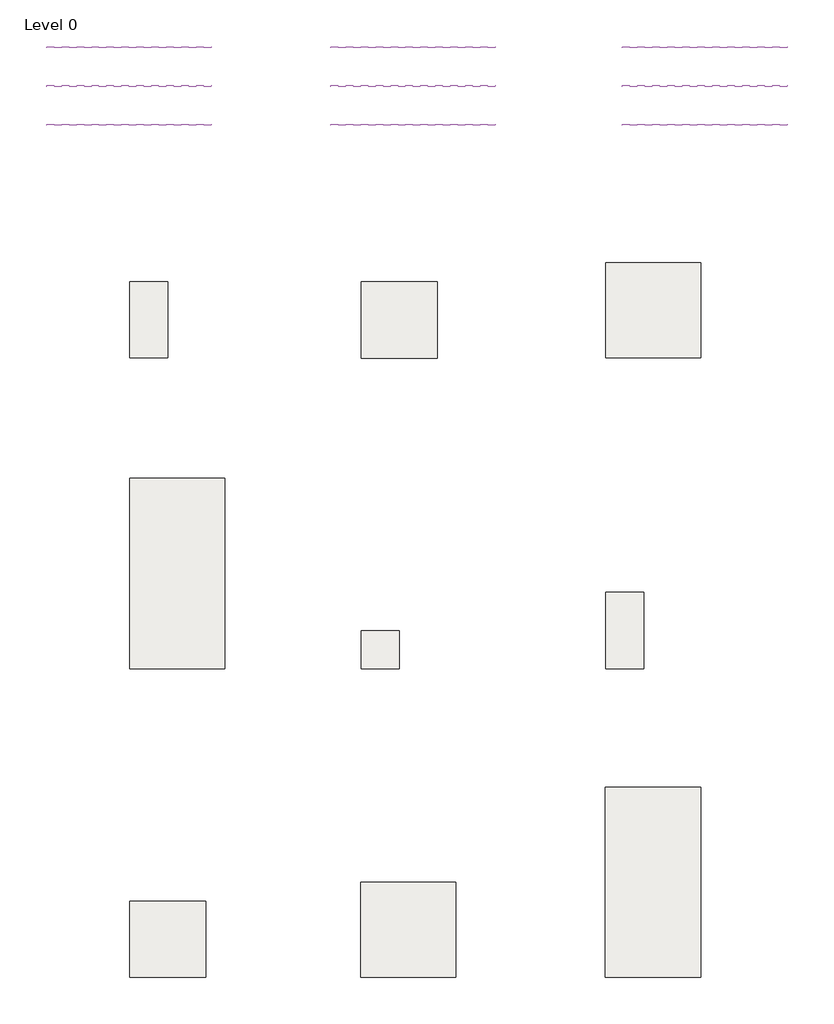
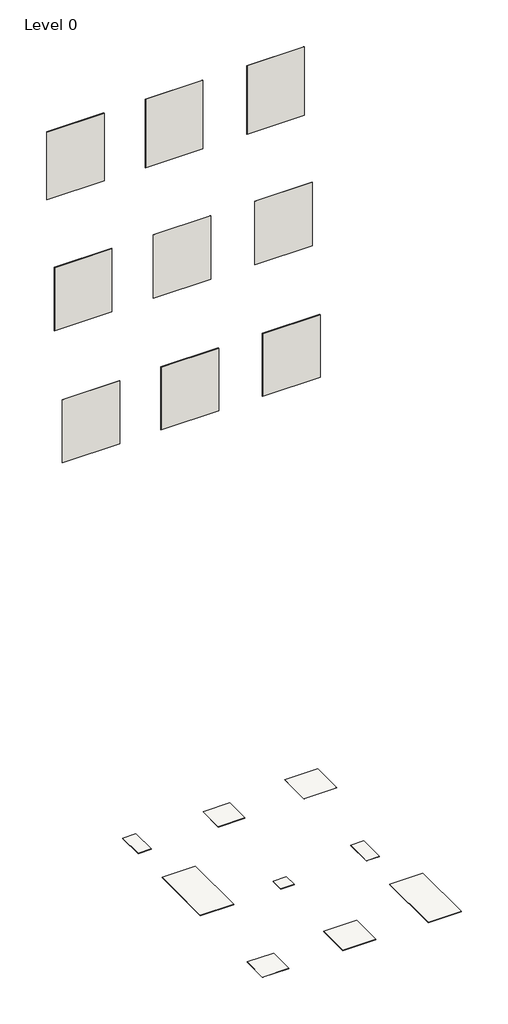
# One storey: 9 slabs, 9 walls.
"""IFC4 building model written with IfcOpenShell, lengths in millimetres."""

import ifcopenshell
import ifcopenshell.guid

model = None  # the IFC model being written
_history = None  # IfcOwnerHistory: only IFC2X3 demands one
_inside = {}  # id of a spatial element -> (the spatial element, [elements in it])
_under = {}  # id of a project, library or spatial element -> (it, [spatial elements below it])
_declared = {}  # id of a project -> (the project, [libraries it declares])
_typed = {}  # id of a type object -> (the type object, [elements of that type])
_made_of = {}  # id of a material, layer set ... -> (it, [elements and type objects made of it])


def new_model(schema):
    """Start an empty IFC model of exactly this schema.

    Asked for "IFC4X3", IfcOpenShell would pick the latest addendum, in which some entities
    have other attributes; the version numbers below select the first issue.
    IFC2X3 requires an IfcOwnerHistory on every rooted entity: one is made here for all.
    """
    global model, _history
    if schema == "IFC4X3":
        model = ifcopenshell.file(schema_version=(4, 3, 0, 0))
    else:
        model = ifcopenshell.file(schema=schema)
    _inside.clear()
    _under.clear()
    _declared.clear()
    _typed.clear()
    _made_of.clear()
    _history = None
    if model.schema == "IFC2X3":
        org = make("IfcOrganization", Name="unknown")
        user = make(
            "IfcPersonAndOrganization",
            ThePerson=make("IfcPerson", FamilyName="unknown"),
            TheOrganization=org,
        )
        app = make(
            "IfcApplication",
            ApplicationDeveloper=org,
            Version="unknown",
            ApplicationFullName="unknown",
            ApplicationIdentifier="unknown",
        )
        _history = make(
            "IfcOwnerHistory",
            OwningUser=user,
            OwningApplication=app,
            ChangeAction="ADDED",
            CreationDate=0,
        )
    return model


def make(cls, **values):
    """One entity of the class cls with the attributes given. An attribute that is None is left unset."""
    return model.create_entity(
        cls, **{name: value for name, value in values.items() if value is not None}
    )


def rooted(cls, **values):
    """An entity with a GlobalId (a new one), such as an element, a storey or a relation."""
    return make(cls, GlobalId=ifcopenshell.guid.new(), OwnerHistory=_history, **values)


def si_unit(unit_type, name, prefix=None):
    """IfcSIUnit, for example si_unit("LENGTHUNIT", "METRE", prefix="MILLI")."""
    return make("IfcSIUnit", UnitType=unit_type, Prefix=prefix, Name=name)


def assignment(units):
    """IfcUnitAssignment: the units of a project."""
    return None if units is None else make("IfcUnitAssignment", Units=units)


def point(xyz):
    """IfcCartesianPoint."""
    return None if xyz is None else make("IfcCartesianPoint", Coordinates=xyz)


def direction(xyz):
    """IfcDirection."""
    return None if xyz is None else make("IfcDirection", DirectionRatios=xyz)


def frame(location, z_axis=None, x_axis=None):
    """IfcAxis2Placement3D, a coordinate frame: its origin and axes. An axis left out is left unset."""
    return make(
        "IfcAxis2Placement3D",
        Location=point(location),
        Axis=direction(z_axis),
        RefDirection=direction(x_axis),
    )


def origin():
    """The frame at (0, 0, 0) with its axes left unset."""
    return frame((0.0, 0.0, 0.0))


def place(relative_to, where):
    """IfcLocalPlacement: puts the frame where relative to a parent placement (None: the world)."""
    return make(
        "IfcLocalPlacement", PlacementRelTo=relative_to, RelativePlacement=where
    )


def context(
    kind, dimensions, precision=None, world=None, true_north=None, identifier=None
):
    """IfcGeometricRepresentationContext, for example the 3D "Model" context."""
    return make(
        "IfcGeometricRepresentationContext",
        ContextIdentifier=identifier,
        ContextType=kind,
        CoordinateSpaceDimension=dimensions,
        Precision=precision,
        WorldCoordinateSystem=world,
        TrueNorth=true_north,
    )


def project(units=None, contexts=None):
    """IfcProject with its units and contexts."""
    return rooted(
        "IfcProject",
        Name="project",
        RepresentationContexts=contexts,
        UnitsInContext=assignment(units),
    )


def spatial(cls, under=None, at=None, **own):
    """A site, building, storey or space (cls), placed at a placement, below another one or the project."""
    s = rooted(cls, ObjectPlacement=at, **own)
    if under is not None:
        _under.setdefault(under.id(), (under, []))[1].append(s)
    return s


def polyline(points):
    """IfcPolyline through the points."""
    return make("IfcPolyline", Points=[point(p) for p in points])


def outline(outer, holes=None, kind="AREA"):
    """IfcArbitraryClosedProfileDef: a profile drawn as a closed curve; with holes, ...WithVoids."""
    if holes is None:
        return make("IfcArbitraryClosedProfileDef", ProfileType=kind, OuterCurve=outer)
    return make(
        "IfcArbitraryProfileDefWithVoids",
        ProfileType=kind,
        OuterCurve=outer,
        InnerCurves=holes,
    )


def extrude(swept, where, along, depth):
    """IfcExtrudedAreaSolid: the profile swept, set in the frame where, extruded along a direction by depth."""
    return make(
        "IfcExtrudedAreaSolid",
        SweptArea=swept,
        Position=where,
        ExtrudedDirection=direction(along),
        Depth=depth,
    )


def shape(context_of_items, identifier, shape_type, items):
    """IfcShapeRepresentation: the items that make up one representation, for example the "Body"."""
    return make(
        "IfcShapeRepresentation",
        ContextOfItems=context_of_items,
        RepresentationIdentifier=identifier,
        RepresentationType=shape_type,
        Items=items,
    )


def made_of(thing, what):
    """Note that an element or type object is made of a material, layer set ...; save() writes the relation."""
    if what is not None:
        _made_of.setdefault(what.id(), (what, []))[1].append(thing)
    return thing


def element(
    cls,
    number,
    at=None,
    inside=None,
    cuts=None,
    type_object=None,
    material=None,
    context=None,
    identifier="Body",
    shape_type=None,
    held_by="IfcProductDefinitionShape",
    body=None,
    shapes=None,
    **own,
):
    """One element of the class cls, such as IfcWall. Its Tag is "e" and its number.

    at: its placement. inside: the storey or other place that contains it. cuts: it is an
    opening in that element (IfcRelVoidsElement). A single representation is given by context,
    identifier, shape_type and body (its items); several are given by shapes. held_by: the class
    of the entity that holds the representations. save() writes the other relations.
    """
    e = rooted(cls, Tag="e%d" % number, ObjectPlacement=at, **own)
    if body is not None:
        shapes = [shape(context, identifier, shape_type, body)]
    if shapes is not None:
        e.Representation = make(held_by, Representations=shapes)
    if inside is not None:
        _inside.setdefault(inside.id(), (inside, []))[1].append(e)
    if cuts is not None:
        rooted(
            "IfcRelVoidsElement", RelatingBuildingElement=cuts, RelatedOpeningElement=e
        )
    if type_object is not None:
        _typed.setdefault(type_object.id(), (type_object, []))[1].append(e)
    return made_of(e, material)


def aggregate(whole, parts):
    """IfcRelAggregates: a whole, such as a stair, and the parts it consists of."""
    return rooted("IfcRelAggregates", RelatingObject=whole, RelatedObjects=parts)


def save(model, path):
    """Write the relations noted so far, then the file.

    IfcRelAggregates (storeys below a building ...), IfcRelContainedInSpatialStructure (elements
    in a storey), IfcRelDefinesByType, IfcRelAssociatesMaterial and IfcRelDeclares: one each for
    every whole, place, type object, material and project.
    """
    for whole, parts in _under.values():
        aggregate(whole, parts)
    for where, things in _inside.values():
        rooted(
            "IfcRelContainedInSpatialStructure",
            RelatedElements=things,
            RelatingStructure=where,
        )
    for kind, things in _typed.values():
        rooted("IfcRelDefinesByType", RelatedObjects=things, RelatingType=kind)
    for what, things in _made_of.values():
        rooted("IfcRelAssociatesMaterial", RelatedObjects=things, RelatingMaterial=what)
    for by, libraries in _declared.values():
        rooted("IfcRelDeclares", RelatingContext=by, RelatedDefinitions=libraries)
    model.write(path)


model = new_model("IFC4")

# Units and contexts
model_context = context("Model", 3, world=origin())
ifc_project = project(units=[si_unit("LENGTHUNIT", "METRE", prefix="MILLI")], contexts=[model_context])

# Site, building, storey
site = spatial("IfcSite", under=ifc_project)
building = spatial("IfcBuilding", under=site)
storey = spatial("IfcBuildingStorey", under=building, Name="Level 0", Elevation=0.0)

# Slabs
placement = place(None, origin())
element("IfcSlab", 1, ObjectType="Floor_Tiles_Refin-Prestigio_Onyx-Beige-75x75 NZ83", at=placement, inside=storey, context=model_context, shape_type="SweptSolid", body=[
    extrude(outline(polyline([(11077.1861419, 6439.4623743), (11077.1861419, 5689.4623743), (10327.1861419, 5689.4623743), (10327.1861419, 6439.4623743), (11077.1861419, 6439.4623743)])), frame((0.0, 0.0, -10.0), z_axis=(0.0, 0.0, 1.0), x_axis=(1.0, 0.0, 0.0)), (0.0, 0.0, 1.0), 10.0),
])
element("IfcSlab", 2, ObjectType="Floor_Tiles_Refin-Prestigio_Onyx-Beige-30x60 NW01", at=placement, inside=storey, context=model_context, shape_type="SweptSolid", body=[
    extrude(outline(polyline([(6874.3752062, 6289.4623743), (6874.3752062, 5689.4623743), (6574.3752062, 5689.4623743), (6574.3752062, 6289.4623743), (6874.3752062, 6289.4623743)])), frame((0.0, 0.0, -10.0), z_axis=(0.0, 0.0, 1.0), x_axis=(1.0, 0.0, 0.0)), (0.0, 0.0, 1.0), 10.0),
])
element("IfcSlab", 3, ObjectType="Floor_Tiles_Refin-Prestigio_Onyx-Beige_Soft-30x60 NW06", at=placement, inside=storey, context=model_context, shape_type="SweptSolid", body=[
    extrude(outline(polyline([(10627.1861419, 3839.4623743), (10627.1861419, 3239.4623743), (10327.1861419, 3239.4623743), (10327.1861419, 3839.4623743), (10627.1861419, 3839.4623743)])), frame((0.0, 0.0, -10.0), z_axis=(0.0, 0.0, 1.0), x_axis=(1.0, 0.0, 0.0)), (0.0, 0.0, 1.0), 10.0),
])
element("IfcSlab", 4, ObjectType="Floor_Tiles_Refin-Prestigio_Onyx-Beige-30x30 NZ91", at=placement, inside=storey, context=model_context, shape_type="SweptSolid", body=[
    extrude(outline(polyline([(8697.3924055, 3539.4623743), (8697.3924055, 3239.4623743), (8397.3924055, 3239.4623743), (8397.3924055, 3539.4623743), (8697.3924055, 3539.4623743)])), frame((0.0, 0.0, -10.0), z_axis=(0.0, 0.0, 1.0), x_axis=(1.0, 0.0, 0.0)), (0.0, 0.0, 1.0), 10.0),
])
element("IfcSlab", 5, ObjectType="Floor_Tiles_Refin-Prestigio_Onyx-Beige-75x150 NV71", at=placement, inside=storey, context=model_context, shape_type="SweptSolid", body=[
    extrude(outline(polyline([(7324.3752062, 4739.4623743), (7324.3752062, 3239.4623743), (6574.3752062, 3239.4623743), (6574.3752062, 4739.4623743), (7324.3752062, 4739.4623743)])), frame((0.0, 0.0, -10.0), z_axis=(0.0, 0.0, 1.0), x_axis=(1.0, 0.0, 0.0)), (0.0, 0.0, 1.0), 10.0),
])
element("IfcSlab", 6, ObjectType="Floor_Tiles_Refin-Prestigio_Onyx-Beige_Soft-60x60 NZ98", at=placement, inside=storey, context=model_context, shape_type="SweptSolid", body=[
    extrude(outline(polyline([(7172.6009331, 1403.4367235), (7172.6009331, 803.4367235), (6572.6009331, 803.4367235), (6572.6009331, 1403.4367235), (7172.6009331, 1403.4367235)])), frame((0.0, 0.0, -10.0), z_axis=(0.0, 0.0, 1.0), x_axis=(1.0, 0.0, 0.0)), (0.0, 0.0, 1.0), 10.0),
])
element("IfcSlab", 7, ObjectType="Floor_Tiles_Refin-Prestigio_Onyx-Beige-60x60 NZ95", at=placement, inside=storey, context=model_context, shape_type="SweptSolid", body=[
    extrude(outline(polyline([(8997.3924055, 6288.4192064), (8997.3924055, 5688.4192064), (8397.3924055, 5688.4192064), (8397.3924055, 6288.4192064), (8997.3924055, 6288.4192064)])), frame((0.0, 0.0, -10.0), z_axis=(0.0, 0.0, 1.0), x_axis=(1.0, 0.0, 0.0)), (0.0, 0.0, 1.0), 10.0),
])
element("IfcSlab", 8, ObjectType="Floor_Tiles_Refin-Prestigio_Onyx-Beige_Soft-75x75 NZ86", at=placement, inside=storey, context=model_context, shape_type="SweptSolid", body=[
    extrude(outline(polyline([(9145.6181323, 1553.4367235), (9145.6181323, 803.4367235), (8395.6181323, 803.4367235), (8395.6181323, 1553.4367235), (9145.6181323, 1553.4367235)])), frame((0.0, 0.0, -10.0), z_axis=(0.0, 0.0, 1.0), x_axis=(1.0, 0.0, 0.0)), (0.0, 0.0, 1.0), 10.0),
])
element("IfcSlab", 9, ObjectType="Floor_Tiles_Refin-Prestigio_Onyx-Beige_Soft-75x150 NZ80", at=placement, inside=storey, context=model_context, shape_type="SweptSolid", body=[
    extrude(outline(polyline([(11075.4118688, 2303.4367235), (11075.4118688, 803.4367235), (10325.4118688, 803.4367235), (10325.4118688, 2303.4367235), (11075.4118688, 2303.4367235)])), frame((0.0, 0.0, -10.0), z_axis=(0.0, 0.0, 1.0), x_axis=(1.0, 0.0, 0.0)), (0.0, 0.0, 1.0), 10.0),
])

# Walls
element("IfcWall", 10, ObjectType="Wall_Tiles_Refin-Prestigio_Onyx-Beige-60x60 NZ95", at=placement, inside=storey, context=model_context, shape_type="SweptSolid", body=[
    extrude(outline(polyline([(9457.3752062, 8132.3838631), (8157.3752062, 8132.3838631), (8157.3752062, 8142.3838631), (9457.3752062, 8142.3838631), (9457.3752062, 8132.3838631)])), frame((0.0, 0.0, 14387.6770443), z_axis=(0.0, 0.0, 1.0), x_axis=(1.0, 0.0, 0.0)), (0.0, 0.0, 1.0), 1641.7417352),
])
element("IfcWall", 11, ObjectType="Wall_Tiles_Refin-Prestigio_Onyx-Beige-75x75 NZ83", at=placement, inside=storey, context=model_context, shape_type="SweptSolid", body=[
    extrude(outline(polyline([(11757.3752062, 8132.3838631), (10457.3752062, 8132.3838631), (10457.3752062, 8142.3838631), (11757.3752062, 8142.3838631), (11757.3752062, 8132.3838631)])), frame((0.0, 0.0, 14387.6770443), z_axis=(0.0, 0.0, 1.0), x_axis=(1.0, 0.0, 0.0)), (0.0, 0.0, 1.0), 1641.7417352),
])
element("IfcWall", 12, ObjectType="Wall_Tiles_Refin-Prestigio_Onyx-Beige-30x60 NW01", at=placement, inside=storey, context=model_context, shape_type="SweptSolid", body=[
    extrude(outline(polyline([(7217.3752062, 8132.3838631), (5917.3752062, 8132.3838631), (5917.3752062, 8142.3838631), (7217.3752062, 8142.3838631), (7217.3752062, 8132.3838631)])), frame((0.0, 0.0, 14403.7267346), z_axis=(0.0, 0.0, 1.0), x_axis=(1.0, 0.0, 0.0)), (0.0, 0.0, 1.0), 1625.692045),
])
element("IfcWall", 13, ObjectType="Wall_Tiles_Refin-Prestigio_Onyx-Beige-75x150 NV71", at=placement, inside=storey, context=model_context, shape_type="SweptSolid", body=[
    extrude(outline(polyline([(7217.3752062, 7827.3838631), (5917.3752062, 7827.3838631), (5917.3752062, 7837.3838631), (7217.3752062, 7837.3838631), (7217.3752062, 7827.3838631)])), frame((0.0, 0.0, 11452.5436262), z_axis=(0.0, 0.0, 1.0), x_axis=(1.0, 0.0, 0.0)), (0.0, 0.0, 1.0), 1513.1985566),
])
element("IfcWall", 14, ObjectType="Wall_Tiles_Refin-Prestigio_Onyx-Beige-30x30 NZ91", at=placement, inside=storey, context=model_context, shape_type="SweptSolid", body=[
    extrude(outline(polyline([(9457.3752062, 7827.3838631), (8157.3752062, 7827.3838631), (8157.3752062, 7837.3838631), (9457.3752062, 7837.3838631), (9457.3752062, 7827.3838631)])), frame((0.0, 0.0, 11452.5436262), z_axis=(0.0, 0.0, 1.0), x_axis=(1.0, 0.0, 0.0)), (0.0, 0.0, 1.0), 1513.1985566),
])
element("IfcWall", 15, ObjectType="Wall_Tiles_Refin-Prestigio_Onyx-Beige_Soft_30x60 NW06", at=placement, inside=storey, context=model_context, shape_type="SweptSolid", body=[
    extrude(outline(polyline([(11757.3752062, 7827.3838631), (10457.3752062, 7827.3838631), (10457.3752062, 7837.3838631), (11757.3752062, 7837.3838631), (11757.3752062, 7827.3838631)])), frame((0.0, 0.0, 11452.5436262), z_axis=(0.0, 0.0, 1.0), x_axis=(1.0, 0.0, 0.0)), (0.0, 0.0, 1.0), 1513.1985566),
])
element("IfcWall", 16, ObjectType="Wall_Tiles_Refin-Prestigio_Onyx-Beige_Soft_60x60 NZ98", at=placement, inside=storey, context=model_context, shape_type="SweptSolid", body=[
    extrude(outline(polyline([(7217.3752062, 7522.3838631), (5917.3752062, 7522.3838631), (5917.3752062, 7532.3838631), (7217.3752062, 7532.3838631), (7217.3752062, 7522.3838631)])), frame((0.0, 0.0, 8479.1027214), z_axis=(0.0, 0.0, 1.0), x_axis=(1.0, 0.0, 0.0)), (0.0, 0.0, 1.0), 1502.5740159),
])
element("IfcWall", 17, ObjectType="Wall_Tiles_Refin-Prestigio_Onyx-Beige_Soft_75x75 NZ86", at=placement, inside=storey, context=model_context, shape_type="SweptSolid", body=[
    extrude(outline(polyline([(9457.3752062, 7522.3838631), (8157.3752062, 7522.3838631), (8157.3752062, 7532.3838631), (9457.3752062, 7532.3838631), (9457.3752062, 7522.3838631)])), frame((0.0, 0.0, 8479.1027214), z_axis=(0.0, 0.0, 1.0), x_axis=(1.0, 0.0, 0.0)), (0.0, 0.0, 1.0), 1502.5740159),
])
element("IfcWall", 18, ObjectType="Wall_Tiles_Refin-Prestigio_Onyx-Beige_Soft_75x150 NZ80", at=placement, inside=storey, context=model_context, shape_type="SweptSolid", body=[
    extrude(outline(polyline([(11757.3752062, 7522.3838631), (10457.3752062, 7522.3838631), (10457.3752062, 7532.3838631), (11757.3752062, 7532.3838631), (11757.3752062, 7522.3838631)])), frame((0.0, 0.0, 8479.1027214), z_axis=(0.0, 0.0, 1.0), x_axis=(1.0, 0.0, 0.0)), (0.0, 0.0, 1.0), 1502.5740159),
])

save(model, "model.ifc")
